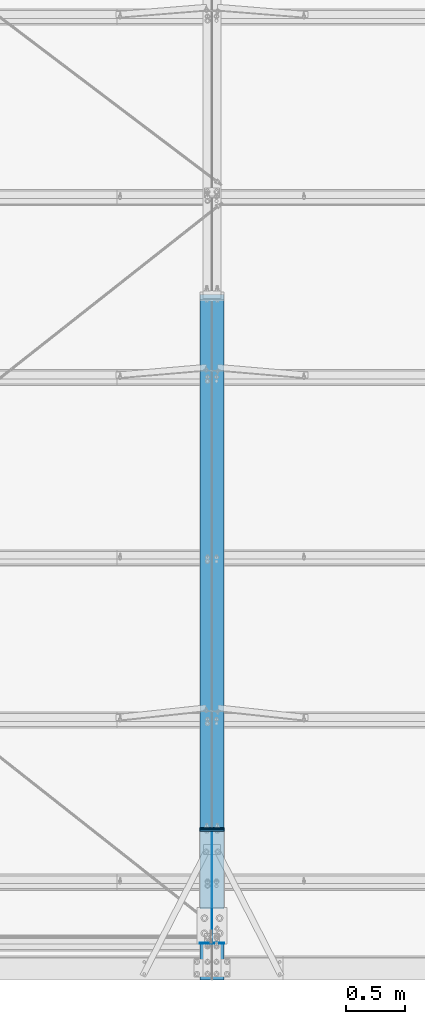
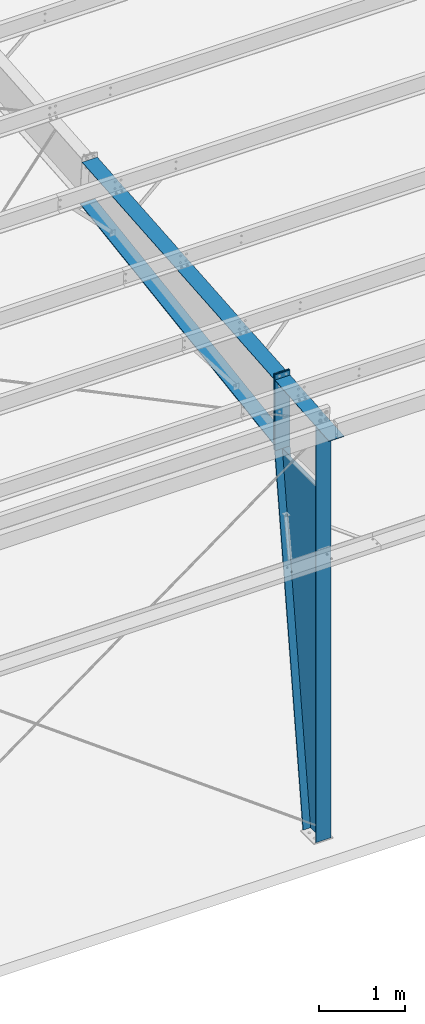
# One storey, part 51 of 185: 8 discrete accessories, 2 elements without a shape of their own.
"""IFC2X3 building model written with IfcOpenShell, lengths in millimetres."""

from ifc_helpers import new_model, si_unit, frame, origin_with_axes, origin_2d_with_axis, place, context, subcontext, project, spatial, rectangle, extrude, clip, halfspace, material, type_object, element, aggregate, save


model = new_model("IFC2X3")

# Units and contexts
model_context = context("Model", 3, precision=1e-05, world=origin_with_axes())
body_context = subcontext(model_context, "Body", "Model", "MODEL_VIEW")
ifc_project = project(units=[si_unit("LENGTHUNIT", "METRE", prefix="MILLI"), si_unit("AREAUNIT", "SQUARE_METRE"), si_unit("VOLUMEUNIT", "CUBIC_METRE"), si_unit("MASSUNIT", "GRAM", prefix="KILO"), si_unit("TIMEUNIT", "SECOND"), si_unit("PLANEANGLEUNIT", "RADIAN"), si_unit("SOLIDANGLEUNIT", "STERADIAN"), si_unit("THERMODYNAMICTEMPERATUREUNIT", "DEGREE_CELSIUS"), si_unit("LUMINOUSINTENSITYUNIT", "LUMEN")], contexts=[model_context])

# Site, building, storey
site_placement = place(None, origin_with_axes())
site = spatial("IfcSite", under=ifc_project, at=site_placement, Name="Undefined", CompositionType="ELEMENT")
building_placement = place(site_placement, origin_with_axes())
building = spatial("IfcBuilding", under=site, at=building_placement, Name="Undefined", CompositionType="ELEMENT")
storey_placement = place(building_placement, origin_with_axes())
storey = spatial("IfcBuildingStorey", under=building, at=storey_placement, Name="Undefined", CompositionType="ELEMENT", Elevation=0.0)

# Assembly, discrete accessory
assembly_1_placement = place(storey_placement, origin_with_axes())
assembly_1 = element("IfcElementAssembly", 1, at=assembly_1_placement, inside=storey, Name="Steel Assembly", AssemblyPlace="NOTDEFINED", PredefinedType="RIGID_FRAME")
ifc_material = material(Name="STEEL/55")
discrete_accessory_type_1 = type_object("IfcDiscreteAccessoryType", Name="Outside Flange")
discrete_accessory_1_placement = place(assembly_1_placement, frame((14859.0, 5725.77406224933, 6365.28254241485), z_axis=(1.0, 0.0, 0.0), x_axis=(0.0, -0.996545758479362, -0.0830454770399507)))
discrete_accessory_1 = element("IfcDiscreteAccessory", 2, at=discrete_accessory_1_placement, type_object=discrete_accessory_type_1, material=ifc_material, Name="Outside Flange", ObjectType="FL5/16\"X8\"", context=body_context, shape_type="SweptSolid", body=[
    extrude(rectangle(XDim=7.874, YDim=203.2, at=origin_2d_with_axis()), frame((4456.74478612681, 0.0, 0.0), z_axis=(-1.0, 0.0, 0.0), x_axis=(0.0, -1.0, 0.0)), (0.0, 0.0, 1.0), 4456.7),
])

assembly_2_placement = place(storey_placement, origin_with_axes())
assembly_2 = element("IfcElementAssembly", 3, at=assembly_2_placement, inside=storey, Name="Steel Assembly", AssemblyPlace="NOTDEFINED", PredefinedType="RIGID_FRAME")
discrete_accessory_2_placement = place(assembly_2_placement, frame((14859.0, 308.737, 15.875), z_axis=(0.0, 0.0, 1.0), x_axis=(-1.0, 0.0, 0.0)))
discrete_accessory_2 = element("IfcDiscreteAccessory", 4, at=discrete_accessory_2_placement, type_object=discrete_accessory_type_1, material=ifc_material, Name="Outside Flange", ObjectType="FL5/16\"X8\"", context=body_context, shape_type="SweptSolid", body=[
    extrude(rectangle(XDim=7.874, YDim=203.2, at=origin_2d_with_axis()), frame((0.0, 0.0, 5893.64290803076), z_axis=(0.0, 0.0, -1.0), x_axis=(0.0, 1.0, 0.0)), (0.0, 0.0, 1.0), 5893.6),
])

# Discrete accessory
discrete_accessory_type_2 = type_object("IfcDiscreteAccessoryType", Name="Inside Flange")
discrete_accessory_3_placement = place(assembly_1_placement, frame((14858.9999999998, 1285.04641844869, 5067.34401433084), z_axis=(-1.0, 0.0, 0.0), x_axis=(0.0, 0.988758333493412, 0.149522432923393)))
discrete_accessory_3 = element("IfcDiscreteAccessory", 5, at=discrete_accessory_3_placement, type_object=discrete_accessory_type_2, material=ifc_material, Name="Inside Flange", ObjectType="FL1/2\"X8\"", context=body_context, shape_type="SweptSolid", body=[
    extrude(rectangle(XDim=12.7, YDim=203.2, at=origin_2d_with_axis()), frame((4542.9272168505, 0.0, 0.0), z_axis=(-1.0, 0.0, 0.0), x_axis=(0.0, -1.0, 0.0)), (0.0, 0.0, 1.0), 4542.9),
])

discrete_accessory_4_placement = place(assembly_2_placement, frame((14858.9999999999, 603.414073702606, 16.7042436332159), z_axis=(-1.0, 0.0, 0.0), x_axis=(0.0, 0.130589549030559, 0.991436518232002)))
discrete_accessory_4 = element("IfcDiscreteAccessory", 6, at=discrete_accessory_4_placement, type_object=discrete_accessory_type_2, material=ifc_material, Name="Inside Flange", ObjectType="FL1/2\"X8\"", context=body_context, shape_type="SweptSolid", body=[
    extrude(rectangle(XDim=12.7, YDim=203.2, at=origin_2d_with_axis()), frame((5018.43796554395, 1.39289634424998e-13, 0.0), z_axis=(-1.0, 0.0, 0.0), x_axis=(0.0, -1.0, 0.0)), (0.0, 0.0, 1.0), 5018.4),
])

discrete_accessory_type_3 = type_object("IfcDiscreteAccessoryType", Name="Web")
discrete_accessory_5_placement = place(assembly_2_placement, frame((14859.0, 782.574, 15.875), z_axis=(0.0, 0.0, 1.0), x_axis=(0.0, -1.0, 0.0)))
discrete_accessory_5 = element("IfcDiscreteAccessory", 7, at=discrete_accessory_5_placement, type_object=discrete_accessory_type_3, material=ifc_material, Name="Web", ObjectType="PL3/16\"X37\"", context=body_context, shape_type="Clipping", body=[
    clip(extrude(rectangle(XDim=4.7625, YDim=939.8, at=origin_2d_with_axis()), frame((0.0, 0.0, 4977.1211511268), z_axis=(0.0, 0.0, -1.0), x_axis=(0.0, 1.0, 0.0)), (0.0, 0.0, 1.0), 4977.1), halfspace(frame((-469.9, -2.38124999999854, 4977.12115112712), z_axis=(-0.991436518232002, 0.0, -0.130589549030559), x_axis=(0.130589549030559, 0.0, -0.991436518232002)), False)),
])

discrete_accessory_type_4 = type_object("IfcDiscreteAccessoryType", Name="Rafter Haunch Plate")
discrete_accessory_6_placement = place(assembly_1_placement, frame((14859.0, 1276.223, 6069.32115112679), z_axis=(1.0, 0.0, 0.0), x_axis=(0.0, 0.0, -1.0)))
discrete_accessory_6 = element("IfcDiscreteAccessory", 8, at=discrete_accessory_6_placement, type_object=discrete_accessory_type_4, material=ifc_material, Name="Rafter Haunch Plate", ObjectType="PL5/8\"X8\"", context=body_context, shape_type="SweptSolid", body=[
    extrude(rectangle(XDim=15.748, YDim=203.2, at=origin_2d_with_axis()), frame((1076.32500219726, 0.0, 0.0), z_axis=(-1.0, 0.0, 0.0), x_axis=(0.0, -1.0, 0.0)), (0.0, 0.0, 1.0), 1076.3),
])

aggregate(assembly_1, [discrete_accessory_1, discrete_accessory_3, discrete_accessory_6])

discrete_accessory_type_5 = type_object("IfcDiscreteAccessoryType", Name="Column Connection Pla")
discrete_accessory_7_placement = place(assembly_2_placement, frame((14859.0, 1260.4115, 6069.32115222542), z_axis=(1.0, 0.0, 0.0), x_axis=(0.0, 0.0, -1.0)))
discrete_accessory_7 = element("IfcDiscreteAccessory", 9, at=discrete_accessory_7_placement, type_object=discrete_accessory_type_5, material=ifc_material, Name="Column Connection Pla", ObjectType="FL5/8\"X8\"", context=body_context, shape_type="SweptSolid", body=[
    extrude(rectangle(XDim=15.875, YDim=203.2, at=origin_2d_with_axis()), frame((1076.32500219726, 0.0, 0.0), z_axis=(-1.0, 0.0, 0.0), x_axis=(0.0, -1.0, 0.0)), (0.0, 0.0, 1.0), 1076.3),
])

discrete_accessory_type_6 = type_object("IfcDiscreteAccessoryType", Name="Cap Plate")
discrete_accessory_8_placement = place(assembly_2_placement, frame((14859.0, 0.330114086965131, 5888.13429608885), z_axis=(-1.0, 0.0, 0.0), x_axis=(0.0, 0.996545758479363, 0.0830454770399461)))
discrete_accessory_8 = element("IfcDiscreteAccessory", 10, at=discrete_accessory_8_placement, type_object=discrete_accessory_type_6, material=ifc_material, Name="Cap Plate", ObjectType="FL5/16\"X8\"", context=body_context, shape_type="SweptSolid", body=[
    extrude(rectangle(XDim=7.9502, YDim=203.2, at=origin_2d_with_axis()), frame((1256.15282737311, 0.0, 0.0), z_axis=(-1.0, 0.0, 0.0), x_axis=(0.0, -1.0, 0.0)), (0.0, 0.0, 1.0), 1256.2),
])

aggregate(assembly_2, [discrete_accessory_7, discrete_accessory_8, discrete_accessory_5, discrete_accessory_4, discrete_accessory_2])

save(model, "model.ifc")
